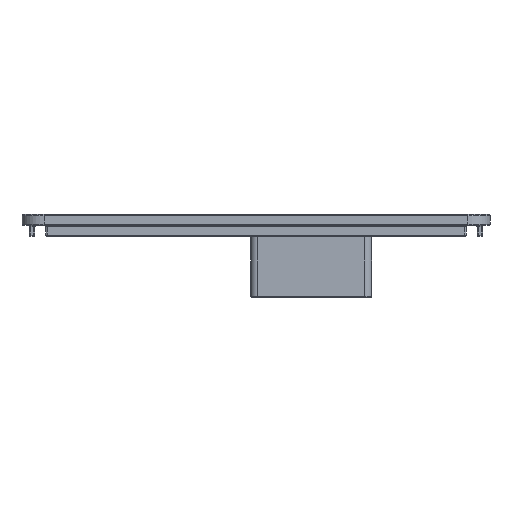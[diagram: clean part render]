
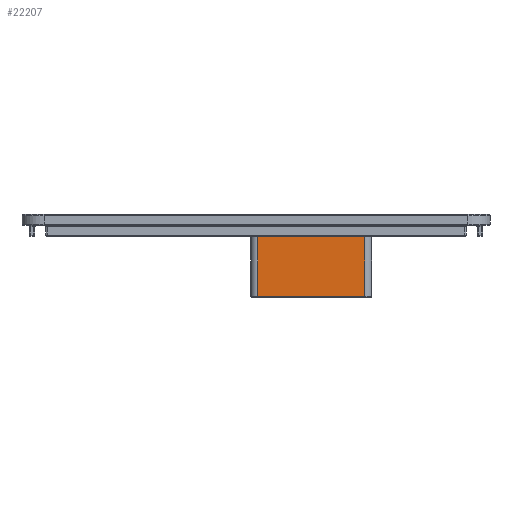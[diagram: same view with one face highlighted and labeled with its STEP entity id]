
A CAD part, front view. The second image highlights one B-rep face of the part: STEP entity #22207.
In plain terms, the highlighted planar face has unit normal (0, -1, 0).
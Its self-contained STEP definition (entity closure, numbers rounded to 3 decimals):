
#5240 = CYLINDRICAL_SURFACE('',#5241,0.48);
#5241 = AXIS2_PLACEMENT_3D('',#5242,#5243,#5244);
#5242 = CARTESIAN_POINT('',(0.6,-11.48,145.52));
#5243 = DIRECTION('',(1.,-0.,-0.));
#5244 = DIRECTION('',(0.,0.,1.));
#13505 = VERTEX_POINT('',#13506);
#13506 = CARTESIAN_POINT('',(0.6,-11.,145.52));
#13541 = CYLINDRICAL_SURFACE('',#13542,2.5);
#13542 = AXIS2_PLACEMENT_3D('',#13543,#13544,#13545);
#13543 = CARTESIAN_POINT('',(0.6,-8.5,119.8));
#13544 = DIRECTION('',(0.,0.,1.));
#13545 = DIRECTION('',(-1.,0.,0.));
#13610 = EDGE_CURVE('',#13505,#13611,#13613,.T.);
#13611 = VERTEX_POINT('',#13612);
#13612 = CARTESIAN_POINT('',(39.47,-11.,145.52));
#13613 = SURFACE_CURVE('',#13614,(#13618,#13625),.PCURVE_S1.);
#13614 = LINE('',#13615,#13616);
#13615 = CARTESIAN_POINT('',(0.6,-11.,145.52));
#13616 = VECTOR('',#13617,1.);
#13617 = DIRECTION('',(1.,-0.,-0.));
#13618 = PCURVE('',#5240,#13619);
#13619 = DEFINITIONAL_REPRESENTATION('',(#13620),#13624);
#13620 = LINE('',#13621,#13622);
#13621 = CARTESIAN_POINT('',(-1.571,0.));
#13622 = VECTOR('',#13623,1.);
#13623 = DIRECTION('',(-0.,1.));
#13624 = ( GEOMETRIC_REPRESENTATION_CONTEXT(2) 
PARAMETRIC_REPRESENTATION_CONTEXT() REPRESENTATION_CONTEXT('2D SPACE',''
  ) );
#13625 = PCURVE('',#13626,#13631);
#13626 = PLANE('',#13627);
#13627 = AXIS2_PLACEMENT_3D('',#13628,#13629,#13630);
#13628 = CARTESIAN_POINT('',(-1.9,-11.,119.8));
#13629 = DIRECTION('',(0.,1.,0.));
#13630 = DIRECTION('',(0.,0.,1.));
#13631 = DEFINITIONAL_REPRESENTATION('',(#13632),#13636);
#13632 = LINE('',#13633,#13634);
#13633 = CARTESIAN_POINT('',(25.72,2.5));
#13634 = VECTOR('',#13635,1.);
#13635 = DIRECTION('',(0.,1.));
#13636 = ( GEOMETRIC_REPRESENTATION_CONTEXT(2) 
PARAMETRIC_REPRESENTATION_CONTEXT() REPRESENTATION_CONTEXT('2D SPACE',''
  ) );
#13755 = CYLINDRICAL_SURFACE('',#13756,2.5);
#13756 = AXIS2_PLACEMENT_3D('',#13757,#13758,#13759);
#13757 = CARTESIAN_POINT('',(39.47,-8.5,119.8));
#13758 = DIRECTION('',(0.,0.,1.));
#13759 = DIRECTION('',(1.,0.,0.));
#22104 = VERTEX_POINT('',#22105);
#22105 = CARTESIAN_POINT('',(0.6,-11.,120.28));
#22132 = EDGE_CURVE('',#22104,#13505,#22133,.T.);
#22133 = SURFACE_CURVE('',#22134,(#22138,#22145),.PCURVE_S1.);
#22134 = LINE('',#22135,#22136);
#22135 = CARTESIAN_POINT('',(0.6,-11.,119.8));
#22136 = VECTOR('',#22137,1.);
#22137 = DIRECTION('',(0.,0.,1.));
#22138 = PCURVE('',#13541,#22139);
#22139 = DEFINITIONAL_REPRESENTATION('',(#22140),#22144);
#22140 = LINE('',#22141,#22142);
#22141 = CARTESIAN_POINT('',(1.571,0.));
#22142 = VECTOR('',#22143,1.);
#22143 = DIRECTION('',(0.,1.));
#22144 = ( GEOMETRIC_REPRESENTATION_CONTEXT(2) 
PARAMETRIC_REPRESENTATION_CONTEXT() REPRESENTATION_CONTEXT('2D SPACE',''
  ) );
#22145 = PCURVE('',#13626,#22146);
#22146 = DEFINITIONAL_REPRESENTATION('',(#22147),#22151);
#22147 = LINE('',#22148,#22149);
#22148 = CARTESIAN_POINT('',(0.,2.5));
#22149 = VECTOR('',#22150,1.);
#22150 = DIRECTION('',(1.,0.));
#22151 = ( GEOMETRIC_REPRESENTATION_CONTEXT(2) 
PARAMETRIC_REPRESENTATION_CONTEXT() REPRESENTATION_CONTEXT('2D SPACE',''
  ) );
#22207 = ADVANCED_FACE('',(#22208),#13626,.F.);
#22208 = FACE_BOUND('',#22209,.F.);
#22209 = EDGE_LOOP('',(#22210,#22233,#22259,#22260));
#22210 = ORIENTED_EDGE('',*,*,#22211,.F.);
#22211 = EDGE_CURVE('',#22212,#13611,#22214,.T.);
#22212 = VERTEX_POINT('',#22213);
#22213 = CARTESIAN_POINT('',(39.47,-11.,120.28));
#22214 = SURFACE_CURVE('',#22215,(#22219,#22226),.PCURVE_S1.);
#22215 = LINE('',#22216,#22217);
#22216 = CARTESIAN_POINT('',(39.47,-11.,119.8));
#22217 = VECTOR('',#22218,1.);
#22218 = DIRECTION('',(0.,0.,1.));
#22219 = PCURVE('',#13626,#22220);
#22220 = DEFINITIONAL_REPRESENTATION('',(#22221),#22225);
#22221 = LINE('',#22222,#22223);
#22222 = CARTESIAN_POINT('',(0.,41.37));
#22223 = VECTOR('',#22224,1.);
#22224 = DIRECTION('',(1.,0.));
#22225 = ( GEOMETRIC_REPRESENTATION_CONTEXT(2) 
PARAMETRIC_REPRESENTATION_CONTEXT() REPRESENTATION_CONTEXT('2D SPACE',''
  ) );
#22226 = PCURVE('',#13755,#22227);
#22227 = DEFINITIONAL_REPRESENTATION('',(#22228),#22232);
#22228 = LINE('',#22229,#22230);
#22229 = CARTESIAN_POINT('',(-1.571,0.));
#22230 = VECTOR('',#22231,1.);
#22231 = DIRECTION('',(-0.,1.));
#22232 = ( GEOMETRIC_REPRESENTATION_CONTEXT(2) 
PARAMETRIC_REPRESENTATION_CONTEXT() REPRESENTATION_CONTEXT('2D SPACE',''
  ) );
#22233 = ORIENTED_EDGE('',*,*,#22234,.T.);
#22234 = EDGE_CURVE('',#22212,#22104,#22235,.T.);
#22235 = SURFACE_CURVE('',#22236,(#22240,#22247),.PCURVE_S1.);
#22236 = LINE('',#22237,#22238);
#22237 = CARTESIAN_POINT('',(39.47,-11.,120.28));
#22238 = VECTOR('',#22239,1.);
#22239 = DIRECTION('',(-1.,-0.,-0.));
#22240 = PCURVE('',#13626,#22241);
#22241 = DEFINITIONAL_REPRESENTATION('',(#22242),#22246);
#22242 = LINE('',#22243,#22244);
#22243 = CARTESIAN_POINT('',(0.48,41.37));
#22244 = VECTOR('',#22245,1.);
#22245 = DIRECTION('',(-0.,-1.));
#22246 = ( GEOMETRIC_REPRESENTATION_CONTEXT(2) 
PARAMETRIC_REPRESENTATION_CONTEXT() REPRESENTATION_CONTEXT('2D SPACE',''
  ) );
#22247 = PCURVE('',#22248,#22253);
#22248 = CYLINDRICAL_SURFACE('',#22249,0.48);
#22249 = AXIS2_PLACEMENT_3D('',#22250,#22251,#22252);
#22250 = CARTESIAN_POINT('',(39.47,-10.52,120.28));
#22251 = DIRECTION('',(-1.,-0.,-0.));
#22252 = DIRECTION('',(0.,0.,-1.));
#22253 = DEFINITIONAL_REPRESENTATION('',(#22254),#22258);
#22254 = LINE('',#22255,#22256);
#22255 = CARTESIAN_POINT('',(1.571,0.));
#22256 = VECTOR('',#22257,1.);
#22257 = DIRECTION('',(0.,1.));
#22258 = ( GEOMETRIC_REPRESENTATION_CONTEXT(2) 
PARAMETRIC_REPRESENTATION_CONTEXT() REPRESENTATION_CONTEXT('2D SPACE',''
  ) );
#22259 = ORIENTED_EDGE('',*,*,#22132,.T.);
#22260 = ORIENTED_EDGE('',*,*,#13610,.T.);
